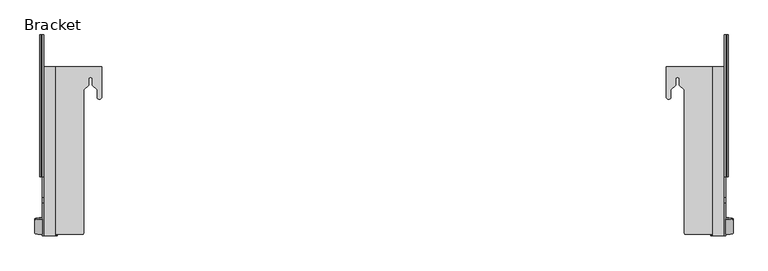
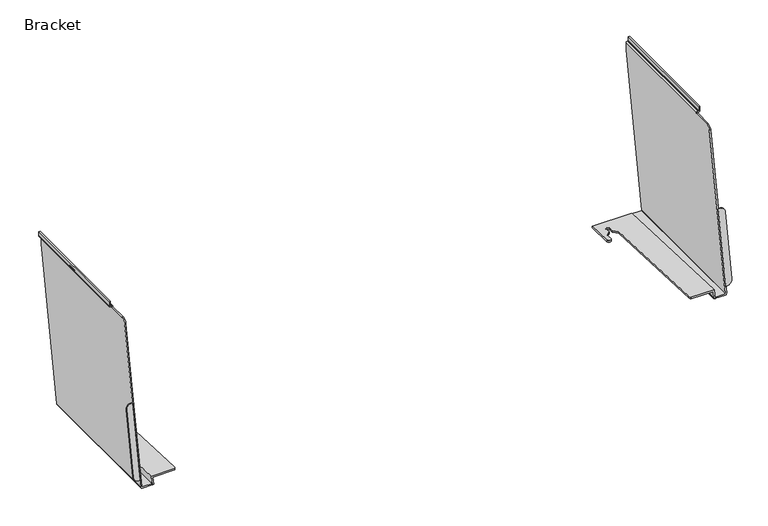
"""IFC4 building model written with IfcOpenShell, lengths in millimetres: furniture geometry, Steelcase Turnstone - Bivi - Seat - Rumble Seat - Table Frame Attachment Bracket : Bracket."""

from ifc_helpers import new_model, si_unit, frame, origin, place, context, project, spatial, polyline, circle_curve, ellipse_curve, source, transform, mapped, element, save
from ifc_brep_helpers import plane_surface, cylinder_surface, revolved_surface, advanced_brep


def bracket_5da60547(model_context):
    return source(origin(), model_context, "Body", "AdvancedBrep", [
        advanced_brep(
        [(1584.7267646, -163.5694426, 504.6641143), (1580.6037127, -163.5694426, 504.6641143), (1580.6037127, -196.2490672, 319.3287534), (1583.9565157, -196.2490672, 319.3287534), (1596.6565127, -194.0437098, 331.8359571), (1596.6565127, -165.6410462, 492.9154667), (1584.7267646, -161.2981934, 504.2522241), (1596.6565127, -163.4269275, 492.5139371), (1596.6565127, -192.6128772, 331.5764762), (1583.9565157, -194.8790539, 319.080302), (1580.6037127, -194.8790539, 319.080302), (1580.6037127, -161.2981934, 504.2522241)],
        [
            (0, 1),
            (1, 2),
            (2, 3),
            (3, 4, ellipse_curve(frame((1583.9565157, -194.0437098, 331.8359571), z_axis=(0.0, -0.9848077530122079, 0.17364817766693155), x_axis=(0.0, -0.1736481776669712, -0.984807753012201)), 12.7001475, 12.6999971)),
            (4, 5),
            (5, 0, ellipse_curve(frame((1584.7267646, -165.6410462, 492.9154667), z_axis=(0.0, -0.9848077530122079, 0.17364817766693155), x_axis=(0.0, -0.1736481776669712, -0.984807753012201)), 11.9298894, 11.9297481)),
            (6, 7, circle_curve(frame((1584.7267646, -163.4269275, 492.5139371), z_axis=(0.0, 0.9839509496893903, -0.1784391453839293), x_axis=(0.0, -0.1784391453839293, -0.9839509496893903)), 11.9297481)),
            (7, 8),
            (8, 9, circle_curve(frame((1583.9565157, -192.6128772, 331.5764762), z_axis=(0.0, 0.9839509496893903, -0.1784391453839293), x_axis=(0.0, -0.1784391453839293, -0.9839509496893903)), 12.6999971)),
            (9, 10),
            (10, 11),
            (11, 6),
            (11, 1),
            (0, 6),
            (10, 2),
            (9, 3),
            (8, 4),
            (7, 5),
        ],
        [
            plane_surface(frame((-105.6465848, -130.1351991, 694.2791319), z_axis=(0.0, -0.9848077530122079, 0.17364817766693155), x_axis=(1.0, 0.0, 0.0))),
            plane_surface(frame((1584.7267646, -165.5556615, 480.7756501), z_axis=(0.0, 0.9839509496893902, -0.17843914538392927), x_axis=(-1.0, 0.0, 0.0))),
            plane_surface(frame((1580.6037127, -161.2981934, 504.2522241), z_axis=(0.0, 0.17843914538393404, 0.9839509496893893), x_axis=(0.0, -0.9839509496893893, 0.17843914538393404))),
            plane_surface(frame((1580.6037127, -194.8790539, 319.080302), z_axis=(-1.0, 0.0, 0.0), x_axis=(0.0, -0.9839509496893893, 0.17843914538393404))),
            plane_surface(frame((1583.9565157, -194.8790539, 319.080302), z_axis=(0.0, -0.17843914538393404, -0.9839509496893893), x_axis=(0.0, -0.9839509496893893, 0.17843914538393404))),
            cylinder_surface(frame((1583.9565157, -195.6877218, 332.1340981), z_axis=(0.0, 0.9839509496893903, -0.1784391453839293), x_axis=(0.0, -0.1784391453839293, -0.9839509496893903)), 12.6999971),
            plane_surface(frame((1596.6565127, -163.4269275, 492.5139371), z_axis=(1.0, 0.0, 0.0), x_axis=(0.0, -0.9839509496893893, 0.17843914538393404))),
            cylinder_surface(frame((1584.7267646, -166.501772, 493.071559), z_axis=(0.0, 0.9839509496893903, -0.1784391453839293), x_axis=(0.0, -0.1784391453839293, -0.9839509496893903)), 11.9297481),
        ],
        [
            (0, [[1, 2, 3, 4, 5, 6]]),
            (1, [[7, 8, 9, 10, 11, 12]]),
            (2, [[-12, 13, -1, 14]]),
            (3, [[-11, 15, -2, -13]]),
            (4, [[-10, 16, -3, -15]]),
            (5, [[-9, 17, -4, -16]]),
            (6, [[-8, 18, -5, -17]]),
            (7, [[-7, -14, -6, -18]]),
        ],
    ),
        advanced_brep(
        [(1552.0033127, -199.8723316, 298.7802), (1552.0033127, -196.1325541, 319.9895321), (1492.7043624, -196.1325541, 319.9895321), (1493.0789112, -196.7451878, 316.5151141), (1548.3318209, -196.7451878, 316.5151141), (1548.3318209, -199.8723316, 298.7802), (1452.5623127, 99.7722819, 307.2629397), (1452.5623127, 164.732528, 304.4690599), (1452.5623127, 164.732528, 300.2899442), (1452.5623127, 99.7722819, 303.2057285), (1552.0033127, 164.732528, 298.7802), (1552.0033127, 164.732528, 304.4690599), (1462.7223127, 99.7722819, 307.2629397), (1462.7223127, 115.3629146, 306.5924011), (1472.5013127, 125.1314569, 306.1722652), (1472.5013127, 137.4119102, 305.6440943), (1480.8833127, 137.4119102, 305.6440943), (1480.8833127, 125.1314569, 306.1722652), (1490.9912172, 115.0343618, 306.6065319), (1490.9912172, -189.7048221, 319.7130813), (1548.3318209, 164.732528, 298.7802), (1548.3318209, 164.732528, 300.2899442), (1490.9912172, -189.7048221, 316.1991026), (1462.7223127, 99.7722819, 303.2057285), (1462.7223127, 115.3629146, 302.5059325), (1472.5013127, 125.1314569, 302.0674649), (1472.5013127, 137.4119102, 301.5162485), (1480.8833127, 137.4119102, 301.5162485), (1480.8833127, 125.1314569, 302.0674649), (1490.9912172, 115.0343618, 302.5206798)],
        [
            (0, 1),
            (1, 2),
            (2, 3, ellipse_curve(frame((1503.9062358, -189.7048221, 356.4430116), z_axis=(0.0, -0.9848077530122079, 0.17364817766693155), x_axis=(0.0, -0.17364817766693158, -0.984807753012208)), 74.3746277, 12.9150186)),
            (3, 4),
            (4, 5),
            (5, 0),
            (6, 7),
            (7, 8),
            (8, 9),
            (9, 6),
            (10, 11),
            (11, 1),
            (0, 10),
            (11, 7),
            (6, 12, ellipse_curve(frame((1457.6423127, 99.7722819, 307.2629397), z_axis=(0.0, 0.04296934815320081, 0.9990763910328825), x_axis=(0.0, 0.9990763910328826, -0.04296934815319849)), 5.0846963, 5.08)),
            (12, 13),
            (13, 14),
            (14, 15),
            (15, 16, ellipse_curve(frame((1476.6923127, 137.4119102, 305.6440943), z_axis=(0.0, -0.04296934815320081, -0.9990763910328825), x_axis=(0.0, -0.9990763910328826, 0.04296934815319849)), 4.1948744, 4.191)),
            (16, 17),
            (17, 18),
            (18, 19),
            (19, 2, ellipse_curve(frame((1503.9062358, -189.7048221, 319.7130813), z_axis=(0.0, 0.04296934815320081, 0.9990763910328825), x_axis=(0.0, 0.9990763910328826, -0.04296934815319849)), 12.926958, 12.9150186)),
            (10, 20),
            (20, 21),
            (21, 8),
            (5, 20),
            (19, 22),
            (22, 3, ellipse_curve(frame((1503.9062358, -189.7048221, 316.1991026), z_axis=(0.0, 0.044840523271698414, 0.9989941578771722), x_axis=(0.0, 0.9989941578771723, -0.04484052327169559)), 12.9280221, 12.9150186)),
            (9, 23, ellipse_curve(frame((1457.6423127, 99.7722819, 303.2057285), z_axis=(0.0, 0.044840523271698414, 0.9989941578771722), x_axis=(0.0, 0.9989941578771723, -0.04484052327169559)), 5.0851148, 5.08)),
            (23, 12),
            (23, 24),
            (24, 13),
            (24, 25),
            (25, 14),
            (25, 26),
            (26, 15),
            (26, 27, ellipse_curve(frame((1476.6923127, 137.4119102, 301.5162485), z_axis=(0.0, -0.044840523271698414, -0.9989941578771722), x_axis=(0.0, -0.9989941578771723, 0.04484052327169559)), 4.1952197, 4.191)),
            (27, 16),
            (27, 28),
            (28, 17),
            (28, 29),
            (29, 18),
            (29, 22),
            (4, 21),
        ],
        [
            plane_surface(frame((-105.6465848, -130.1351991, 694.2791319), z_axis=(0.0, -0.9848077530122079, 0.17364817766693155), x_axis=(1.0, 0.0, 0.0))),
            plane_surface(frame((1452.5623127, 164.732528, 300.5888376), z_axis=(-1.0, 0.0, 0.0), x_axis=(0.0, 0.0, -1.0))),
            plane_surface(frame((1552.0033127, 164.732528, 300.5888376), z_axis=(1.0, 0.0, 0.0), x_axis=(0.0, 0.0, 1.0))),
            plane_surface(frame((1452.5623127, -200.4313954, 320.1744212), z_axis=(0.0, 0.04296934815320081, 0.9990763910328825), x_axis=(1.0, 0.0, 0.0))),
            plane_surface(frame((1452.5623127, 164.732528, 304.4690599), z_axis=(0.0, 1.0, 0.0), x_axis=(1.0, 0.0, 0.0))),
            plane_surface(frame((1452.5623127, 164.732528, 298.7802), z_axis=(0.0, 0.0, -1.0), x_axis=(1.0, 0.0, 0.0))),
            cylinder_surface(frame((1503.9062358, -189.7048221, 0.0), z_axis=(0.0, 0.0, -1.0), x_axis=(-1.0, 0.0, 0.0)), 12.9150186),
            cylinder_surface(frame((1457.6423127, 99.7722819, 0.0), z_axis=(0.0, 0.0, -1.0), x_axis=(-1.0, 0.0, 0.0)), 5.08),
            plane_surface(frame((1462.7223127, 115.3629146, 407.911709), z_axis=(1.0, 0.0, 0.0), x_axis=(0.0, 0.0, -1.0))),
            plane_surface(frame((1472.5013127, 125.1314569, 407.911709), z_axis=(0.7067283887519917, -0.7074849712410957, 0.0), x_axis=(0.0, 0.0, -1.0))),
            plane_surface(frame((1472.5013127, 137.4119102, 407.911709), z_axis=(1.0, 0.0, 0.0), x_axis=(0.0, 0.0, -1.0))),
            revolved_surface(polyline([(1472.5013127, 137.4119102, 305.82434531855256), (1472.5013127, 137.4119102, 301.3281326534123)]), (1476.6923127, 137.4119102, 0.0), (0.0, 0.0, 1.0)),
            plane_surface(frame((1480.8833127, 125.1314569, 407.911709), z_axis=(-1.0, 0.0, 0.0), x_axis=(0.0, 0.0, -1.0))),
            plane_surface(frame((1490.9912172, 115.0343618, 407.911709), z_axis=(-0.7067283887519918, -0.7074849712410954, 0.0), x_axis=(0.0, 0.0, -1.0))),
            plane_surface(frame((1490.9912172, -189.7048221, 407.911709), z_axis=(-1.0, 0.0, 0.0), x_axis=(0.0, 0.0, -1.0))),
            plane_surface(frame((1548.3318209, -201.7788062, 316.7410515), z_axis=(-1.0000000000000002, 0.0, 0.0), x_axis=(0.0, -0.9989941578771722, 0.044840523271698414))),
            plane_surface(frame((1548.3318209, 164.9966462, 300.2780891), z_axis=(0.0, -0.044840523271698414, -0.9989941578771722), x_axis=(-1.0, 0.0, 0.0))),
        ],
        [
            (0, [[1, 2, 3, 4, 5, 6]]),
            (1, [[7, 8, 9, 10]]),
            (2, [[11, 12, -1, 13]]),
            (3, [[14, -7, 15, 16, 17, 18, 19, 20, 21, 22, 23, -2, -12]]),
            (4, [[-11, 24, 25, 26, -8, -14]]),
            (5, [[-13, -6, 27, -24]]),
            (6, [[-23, 28, 29, -3]]),
            (7, [[-15, -10, 30, 31]]),
            (8, [[-16, -31, 32, 33]]),
            (9, [[-17, -33, 34, 35]]),
            (10, [[-18, -35, 36, 37]]),
            (11, [[-19, -37, 38, 39]]),
            (12, [[-20, -39, 40, 41]]),
            (13, [[-21, -41, 42, 43]]),
            (14, [[-22, -43, 44, -28]]),
            (15, [[45, -25, -27, -5]]),
            (16, [[-45, -4, -29, -44, -42, -40, -38, -36, -34, -32, -30, -9, -26]]),
        ],
    ),
        advanced_brep(
        [(1583.5501127, 233.2990046, 720.9282), (1586.5473127, 233.2990046, 720.9282), (1586.5473127, 233.2990046, 709.8772043), (1583.1203084, 233.2990046, 706.4502), (1581.2433586, 233.2990046, 706.4502), (1580.6037127, 233.2990046, 705.8105541), (1580.6037127, 233.2990046, 687.6400124), (1577.6065127, 233.2990046, 687.6400124), (1577.6065127, 233.2990046, 706.0611666), (1580.9927462, 233.2990046, 709.4474), (1582.8546097, 233.2990046, 709.4474), (1583.5501127, 233.2990046, 710.142903), (1583.5501127, -72.9741954, 720.9282), (1586.5473127, -72.9741954, 720.9282), (1586.5473127, -72.9741954, 709.8772043), (1583.1203084, -72.9741954, 706.4502), (1581.2433586, -72.9741954, 706.4502), (1580.6037127, -72.9741954, 705.8105541), (1580.6037127, -72.9741954, 704.7738), (1580.6037127, -117.6281406, 704.7738), (1580.6037127, -130.1351991, 694.2791319), (1580.6037127, -199.2005258, 302.5902), (1580.6037127, 165.4043338, 302.5902), (1576.7937127, -199.8723316, 298.7802), (1576.7937127, 164.732528, 298.7802), (1552.0541127, -199.8723316, 298.7802), (1552.0541127, 164.732528, 298.7802), (1548.3318209, -199.3438444, 301.7774), (1548.3318209, 165.2610152, 301.7774), (1576.8244238, -199.3438444, 301.7774), (1576.8244238, 165.2610152, 301.7774), (1577.6065127, -199.205941, 302.559489), (1577.6065127, 165.3989186, 302.559489), (1577.6065127, -130.1351991, 694.2791319), (1577.6065127, -117.6281406, 704.7738), (1577.6065127, -72.9741954, 704.7738), (1577.6065127, -72.9741954, 706.0611666), (1580.9927462, -72.9741954, 709.4474), (1582.8546097, -72.9741954, 709.4474), (1583.5501127, -72.9741954, 710.142903)],
        [
            (0, 1),
            (1, 2),
            (2, 3, circle_curve(frame((1583.1203084, 233.2990046, 709.8772043), z_axis=(0.0, 1.0, 0.0), x_axis=(-1.0, 0.0, 0.0)), 3.4270043)),
            (3, 4),
            (4, 5, circle_curve(frame((1581.2433586, 233.2990046, 705.8105541), z_axis=(0.0, -1.0, 0.0), x_axis=(-1.0, 0.0, 0.0)), 0.6396459)),
            (5, 6),
            (6, 7),
            (7, 8),
            (8, 9, circle_curve(frame((1580.9927462, 233.2990046, 706.0611666), z_axis=(0.0, 1.0, 0.0), x_axis=(-1.0, 0.0, 0.0)), 3.3862334)),
            (9, 10),
            (10, 11, circle_curve(frame((1582.8546097, 233.2990046, 710.142903), z_axis=(0.0, -1.0, 0.0), x_axis=(-1.0, 0.0, 0.0)), 0.695503)),
            (11, 0),
            (0, 12),
            (12, 13),
            (13, 1),
            (13, 14),
            (14, 2),
            (14, 15, circle_curve(frame((1583.1203084, -72.9741954, 709.8772043), z_axis=(0.0, 1.0, 0.0), x_axis=(-1.0, 0.0, 0.0)), 3.4270043)),
            (15, 3),
            (15, 16),
            (16, 4),
            (16, 17, circle_curve(frame((1581.2433586, -72.9741954, 705.8105541), z_axis=(0.0, -1.0, 0.0), x_axis=(-1.0, 0.0, 0.0)), 0.6396459)),
            (17, 5),
            (17, 18),
            (18, 19),
            (19, 20, circle_curve(frame((1580.6037127, -117.6281406, 692.0738), z_axis=(1.0, 0.0, 0.0), x_axis=(0.0, -1.0, 0.0)), 12.7)),
            (20, 21),
            (21, 22),
            (22, 6),
            (21, 23, ellipse_curve(frame((1576.7937127, -199.2005258, 302.5902), z_axis=(0.0, 0.9848077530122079, -0.17364817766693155), x_axis=(0.0, -0.173648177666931, -0.9848077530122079)), 3.8687754, 3.81)),
            (23, 24),
            (24, 22, ellipse_curve(frame((1576.7937127, 165.4043338, 302.5902), z_axis=(0.0, -0.9848077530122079, 0.17364817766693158), x_axis=(0.0, -0.173648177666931, -0.984807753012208)), 3.8687754, 3.81)),
            (23, 25),
            (25, 26),
            (26, 24),
            (25, 27, ellipse_curve(frame((1552.0541127, -199.2005258, 302.5902), z_axis=(0.0, 0.9848077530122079, -0.17364817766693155), x_axis=(0.0, -0.173648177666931, -0.9848077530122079)), 3.8687754, 3.81)),
            (27, 28),
            (28, 26, ellipse_curve(frame((1552.0541127, 165.4043338, 302.5902), z_axis=(0.0, -0.9848077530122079, 0.17364817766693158), x_axis=(0.0, -0.173648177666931, -0.984807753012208)), 3.8687754, 3.81)),
            (27, 29),
            (29, 30),
            (30, 28),
            (29, 31, ellipse_curve(frame((1576.8244238, -199.205941, 302.559489), z_axis=(0.0, -0.9848077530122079, 0.17364817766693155), x_axis=(0.0, 0.173648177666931, 0.9848077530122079)), 0.7941539, 0.782089)),
            (31, 32),
            (32, 30, ellipse_curve(frame((1576.8244238, 165.3989186, 302.559489), z_axis=(0.0, 0.9848077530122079, -0.17364817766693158), x_axis=(0.0, 0.173648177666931, 0.984807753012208)), 0.7941539, 0.782089)),
            (7, 32),
            (31, 33),
            (33, 34, circle_curve(frame((1577.6065127, -117.6281406, 692.0738), z_axis=(-1.0, 0.0, 0.0), x_axis=(0.0, -1.0, 0.0)), 12.7)),
            (34, 35),
            (35, 36),
            (36, 8),
            (36, 37, circle_curve(frame((1580.9927462, -72.9741954, 706.0611666), z_axis=(0.0, 1.0, 0.0), x_axis=(-1.0, 0.0, 0.0)), 3.3862334)),
            (37, 9),
            (37, 38),
            (38, 10),
            (38, 39, circle_curve(frame((1582.8546097, -72.9741954, 710.142903), z_axis=(0.0, -1.0, 0.0), x_axis=(-1.0, 0.0, 0.0)), 0.695503)),
            (39, 11),
            (39, 12),
            (35, 18),
            (20, 33),
            (19, 34),
        ],
        [
            plane_surface(frame((1583.5501127, 233.2990046, 710.142903), z_axis=(0.0, 1.0, 0.0), x_axis=(0.0, 0.0, 1.0))),
            plane_surface(frame((1586.5473127, -200.4313954, 720.9282), z_axis=(0.0, 0.0, 1.0), x_axis=(0.0, 1.0, 0.0))),
            plane_surface(frame((1586.5473127, -200.4313954, 709.8772043), z_axis=(1.0, 0.0, 0.0), x_axis=(0.0, 1.0, 0.0))),
            cylinder_surface(frame((1583.1203084, 233.2990046, 709.8772043), z_axis=(0.0, -1.0, 0.0), x_axis=(-1.0, 0.0, 0.0)), 3.4270043),
            plane_surface(frame((1581.2433586, -200.4313954, 706.4502), z_axis=(-5.552943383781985e-12, 0.0, -1.0), x_axis=(0.0, 1.0, 0.0))),
            revolved_surface(polyline([(1580.6037127, 233.2990046, 705.8105541), (1580.6037127, -72.97419539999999, 705.8105541)]), (1581.2433586, 233.2990046, 705.8105541), (0.0, 1.0, 0.0)),
            plane_surface(frame((1580.6037127, -200.4313954, 302.5902), z_axis=(1.0, 0.0, 0.0), x_axis=(0.0, 1.0, 0.0))),
            cylinder_surface(frame((1576.7937127, 233.2990046, 302.5902), z_axis=(0.0, -1.0, 0.0), x_axis=(-1.0, 0.0, 0.0)), 3.81),
            plane_surface(frame((1552.0541127, -200.4313954, 298.7802), z_axis=(0.0, 0.0, -1.0), x_axis=(0.0, 1.0, 0.0))),
            cylinder_surface(frame((1552.0541127, 233.2990046, 302.5902), z_axis=(0.0, -1.0, 0.0), x_axis=(-1.0, 0.0, 0.0)), 3.81),
            plane_surface(frame((1576.8244238, -200.4313954, 301.7774), z_axis=(0.0, 0.0, 1.0), x_axis=(0.0, 1.0, 0.0))),
            revolved_surface(polyline([(1576.0423348, 165.5368219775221, 302.559489), (1576.0423348, -199.34384439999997, 302.559489)]), (1576.8244238, 233.2990046, 302.559489), (0.0, 1.0, 0.0)),
            plane_surface(frame((1577.6065127, -200.4313954, 706.0611666), z_axis=(-1.0, 0.0, 0.0), x_axis=(0.0, 1.0, 0.0))),
            cylinder_surface(frame((1580.9927462, 233.2990046, 706.0611666), z_axis=(0.0, -1.0, 0.0), x_axis=(-1.0, 0.0, 0.0)), 3.3862334),
            plane_surface(frame((1582.8546097, -200.4313954, 709.4474), z_axis=(-9.523764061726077e-12, 0.0, 1.0), x_axis=(0.0, 1.0, 0.0))),
            revolved_surface(polyline([(1582.1591067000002, 233.2990046, 710.142903), (1582.1591067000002, -72.97419539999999, 710.142903)]), (1582.8546097, 233.2990046, 710.142903), (0.0, 1.0, 0.0)),
            plane_surface(frame((1583.5501127, -200.4313954, 720.9282), z_axis=(-1.0, 0.0, 0.0), x_axis=(0.0, 1.0, 0.0))),
            plane_surface(frame((-105.6465848, 158.3177215, 262.4000247), z_axis=(0.0, 0.9848077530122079, -0.17364817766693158), x_axis=(1.0, 0.0, 0.0))),
            plane_surface(frame((-105.6465848, -72.9741954, 720.9282), z_axis=(0.0, -1.0, 0.0), x_axis=(1.0, 0.0, 0.0))),
            plane_surface(frame((-105.6465848, -130.1351991, 694.2791319), z_axis=(0.0, -0.9848077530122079, 0.17364817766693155), x_axis=(1.0, 0.0, 0.0))),
            cylinder_surface(frame((889.0125127, -117.6281406, 692.0738), z_axis=(1.0, 0.0, 0.0), x_axis=(0.0, -1.0, 0.0)), 12.7),
            plane_surface(frame((-105.6465848, -72.9741954, 704.7738), z_axis=(0.0, 0.0, 1.0), x_axis=(1.0, 0.0, 0.0))),
        ],
        [
            (0, [[1, 2, 3, 4, 5, 6, 7, 8, 9, 10, 11, 12]]),
            (1, [[-1, 13, 14, 15]]),
            (2, [[-2, -15, 16, 17]]),
            (3, [[-3, -17, 18, 19]]),
            (4, [[-4, -19, 20, 21]]),
            (5, [[-5, -21, 22, 23]]),
            (6, [[-6, -23, 24, 25, 26, 27, 28, 29]]),
            (7, [[-28, 30, 31, 32]]),
            (8, [[-31, 33, 34, 35]]),
            (9, [[-34, 36, 37, 38]]),
            (10, [[-37, 39, 40, 41]]),
            (11, [[-40, 42, 43, 44]]),
            (12, [[-8, 45, -43, 46, 47, 48, 49, 50]]),
            (13, [[-9, -50, 51, 52]]),
            (14, [[-10, -52, 53, 54]]),
            (15, [[-11, -54, 55, 56]]),
            (16, [[-12, -56, 57, -13]]),
            (17, [[-7, -29, -32, -35, -38, -41, -44, -45]]),
            (18, [[58, -24, -22, -20, -18, -16, -14, -57, -55, -53, -51, -49]]),
            (19, [[59, -46, -42, -39, -36, -33, -30, -27]]),
            (20, [[-59, -26, 60, -47]]),
            (21, [[-60, -25, -58, -48]]),
        ],
    ),
        advanced_brep(
        [(103.4330609, -161.2981934, 504.2522241), (107.5561127, -161.2981934, 504.2522241), (107.5561127, -194.8790539, 319.080302), (104.2033098, -194.8790539, 319.080302), (91.5033127, -192.6128772, 331.5764762), (91.5033127, -163.4269275, 492.5139371), (103.4330609, -163.5694426, 504.6641143), (107.5561127, -163.5694426, 504.6641143), (107.5561127, -196.2490672, 319.3287534), (104.2033098, -196.2490672, 319.3287534), (91.5033127, -194.0437098, 331.8359571), (91.5033127, -165.6410462, 492.9154667)],
        [
            (0, 1),
            (1, 2),
            (2, 3),
            (3, 4, circle_curve(frame((104.2033098, -192.6128772, 331.5764762), z_axis=(0.0, 0.9839509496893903, -0.1784391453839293), x_axis=(1.0, 0.0, 0.0)), 12.6999971)),
            (4, 5),
            (5, 0, circle_curve(frame((103.4330609, -163.4269275, 492.5139371), z_axis=(0.0, 0.9839509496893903, -0.1784391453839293), x_axis=(1.0, 0.0, 0.0)), 11.9297481)),
            (0, 6),
            (6, 7),
            (7, 1),
            (7, 8),
            (8, 2),
            (8, 9),
            (9, 3),
            (9, 10, ellipse_curve(frame((104.2033098, -194.0437098, 331.8359571), z_axis=(0.0, 0.9848077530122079, -0.17364817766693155), x_axis=(0.0, -0.1736481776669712, -0.984807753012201)), 12.7001475, 12.6999971)),
            (10, 4),
            (10, 11),
            (11, 5),
            (11, 6, ellipse_curve(frame((103.4330609, -165.6410462, 492.9154667), z_axis=(0.0, 0.9848077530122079, -0.17364817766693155), x_axis=(0.0, -0.1736481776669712, -0.984807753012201)), 11.9298894, 11.9297481)),
        ],
        [
            plane_surface(frame((107.5561127, -161.2981934, 504.2522241), z_axis=(0.0, 0.9839509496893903, -0.1784391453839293), x_axis=(1.0, 0.0, 0.0))),
            plane_surface(frame((103.4330609, -161.2981934, 504.2522241), z_axis=(0.0, 0.17843914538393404, 0.9839509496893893), x_axis=(0.0, -0.9839509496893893, 0.17843914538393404))),
            plane_surface(frame((107.5561127, -161.2981934, 504.2522241), z_axis=(1.0, 0.0, 0.0), x_axis=(0.0, -0.9839509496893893, 0.17843914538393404))),
            plane_surface(frame((107.5561127, -194.8790539, 319.080302), z_axis=(0.0, -0.17843914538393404, -0.9839509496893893), x_axis=(0.0, -0.9839509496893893, 0.17843914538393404))),
            cylinder_surface(frame((104.2033098, -195.6877218, 332.1340981), z_axis=(0.0, 0.9839509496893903, -0.1784391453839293), x_axis=(1.0, 0.0, 0.0)), 12.6999971),
            plane_surface(frame((91.5033127, -192.6128772, 331.5764762), z_axis=(-1.0, 0.0, 0.0), x_axis=(0.0, -0.9839509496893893, 0.17843914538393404))),
            cylinder_surface(frame((103.4330609, -166.501772, 493.071559), z_axis=(0.0, 0.9839509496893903, -0.1784391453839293), x_axis=(1.0, 0.0, 0.0)), 11.9297481),
            plane_surface(frame((-105.6465848, -130.1351991, 694.2791319), z_axis=(0.0, -0.9848077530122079, 0.17364817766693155), x_axis=(1.0, 0.0, 0.0))),
        ],
        [
            (0, [[1, 2, 3, 4, 5, 6]]),
            (1, [[-1, 7, 8, 9]]),
            (2, [[-2, -9, 10, 11]]),
            (3, [[-3, -11, 12, 13]]),
            (4, [[-4, -13, 14, 15]]),
            (5, [[-5, -15, 16, 17]]),
            (6, [[-6, -17, 18, -7]]),
            (7, [[-8, -18, -16, -14, -12, -10]]),
        ],
    ),
        advanced_brep(
        [(235.5975127, 164.732528, 300.2899442), (235.5975127, 164.732528, 304.4690599), (235.5975127, 99.7722819, 307.2629397), (235.5975127, 99.7722819, 303.2057285), (136.1565127, 164.732528, 304.4690599), (136.1565127, 164.732528, 298.7802), (136.1565127, -199.8723316, 298.7802), (136.1565127, -196.1325541, 319.9895321), (195.455463, -196.1325541, 319.9895321), (197.1686083, -189.7048221, 319.7130813), (197.1686083, 115.0343618, 306.6065319), (207.2765127, 125.1314569, 306.1722652), (207.2765127, 137.4119102, 305.6440943), (215.6585127, 137.4119102, 305.6440943), (215.6585127, 125.1314569, 306.1722652), (225.4375127, 115.3629146, 306.5924011), (225.4375127, 99.7722819, 307.2629397), (139.8280045, 164.732528, 300.2899442), (139.8280045, 164.732528, 298.7802), (139.8280045, -199.8723316, 298.7802), (139.8280045, -196.7451878, 316.5151141), (225.4375127, 99.7722819, 303.2057285), (225.4375127, 115.3629146, 302.5059325), (215.6585127, 125.1314569, 302.0674649), (215.6585127, 137.4119102, 301.5162485), (207.2765127, 137.4119102, 301.5162485), (207.2765127, 125.1314569, 302.0674649), (197.1686083, 115.0343618, 302.5206798), (197.1686083, -189.7048221, 316.1991026), (195.0809142, -196.7451878, 316.5151141)],
        [
            (0, 1),
            (1, 2),
            (2, 3),
            (3, 0),
            (4, 5),
            (5, 6),
            (6, 7),
            (7, 4),
            (1, 4),
            (7, 8),
            (8, 9, ellipse_curve(frame((184.2535897, -189.7048221, 319.7130813), z_axis=(0.0, 0.04296934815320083, 0.9990763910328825), x_axis=(0.0, 0.9990763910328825, -0.04296934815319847)), 12.926958, 12.9150186)),
            (9, 10),
            (10, 11),
            (11, 12),
            (12, 13, ellipse_curve(frame((211.4675127, 137.4119102, 305.6440943), z_axis=(0.0, -0.04296934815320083, -0.9990763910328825), x_axis=(0.0, -0.9990763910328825, 0.04296934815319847)), 4.1948744, 4.191)),
            (13, 14),
            (14, 15),
            (15, 16),
            (16, 2, ellipse_curve(frame((230.5175127, 99.7722819, 307.2629397), z_axis=(0.0, 0.04296934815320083, 0.9990763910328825), x_axis=(0.0, 0.9990763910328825, -0.04296934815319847)), 5.0846963, 5.08)),
            (0, 17),
            (17, 18),
            (18, 5),
            (18, 19),
            (19, 6),
            (17, 20),
            (20, 19),
            (3, 21, ellipse_curve(frame((230.5175127, 99.7722819, 303.2057285), z_axis=(0.0, -0.044840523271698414, -0.9989941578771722), x_axis=(0.0, 0.9989941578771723, -0.04484052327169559)), 5.0851148, 5.08)),
            (21, 22),
            (22, 23),
            (23, 24),
            (24, 25, ellipse_curve(frame((211.4675127, 137.4119102, 301.5162485), z_axis=(0.0, 0.044840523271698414, 0.9989941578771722), x_axis=(0.0, -0.9989941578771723, 0.04484052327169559)), 4.1952197, 4.191)),
            (25, 26),
            (26, 27),
            (27, 28),
            (28, 29, ellipse_curve(frame((184.2535897, -189.7048221, 316.1991026), z_axis=(0.0, -0.044840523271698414, -0.9989941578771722), x_axis=(0.0, 0.9989941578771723, -0.04484052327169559)), 12.9280221, 12.9150186)),
            (29, 20),
            (28, 9),
            (8, 29, ellipse_curve(frame((184.2535897, -189.7048221, 356.4430116), z_axis=(0.0, 0.9848077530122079, -0.17364817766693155), x_axis=(0.0, -0.17364817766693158, -0.984807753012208)), 74.3746277, 12.9150186)),
            (16, 21),
            (15, 22),
            (14, 23),
            (13, 24),
            (12, 25),
            (11, 26),
            (10, 27),
        ],
        [
            plane_surface(frame((235.5975127, -200.4313954, 320.1744212), z_axis=(1.0, 0.0, 0.0), x_axis=(0.0, -0.9990763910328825, 0.04296934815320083))),
            plane_surface(frame((136.1565127, -200.4313954, 320.1744212), z_axis=(-1.0, 0.0, 0.0), x_axis=(0.0, 0.9990763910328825, -0.04296934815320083))),
            plane_surface(frame((235.5975127, 164.732528, 304.4690599), z_axis=(0.0, 0.04296934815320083, 0.9990763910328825), x_axis=(-1.0, 0.0, 0.0))),
            plane_surface(frame((235.5975127, 164.732528, 298.7802), z_axis=(0.0, 1.0, 0.0), x_axis=(-1.0, 0.0, 0.0))),
            plane_surface(frame((235.5975127, -200.5813731, 298.7802), z_axis=(0.0, 0.0, -1.0), x_axis=(-1.0, 0.0, 0.0))),
            plane_surface(frame((139.8280045, 164.9966462, 300.2780891), z_axis=(1.0, 0.0, 0.0), x_axis=(0.0, 0.0, -1.0))),
            plane_surface(frame((139.8280045, -201.7788062, 316.7410515), z_axis=(0.0, -0.044840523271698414, -0.9989941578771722), x_axis=(1.0, 0.0, 0.0))),
            cylinder_surface(frame((184.2535897, -189.7048221, 0.0), z_axis=(0.0, 0.0, -1.0), x_axis=(1.0, 0.0, 0.0)), 12.9150186),
            cylinder_surface(frame((230.5175127, 99.7722819, 0.0), z_axis=(0.0, 0.0, -1.0), x_axis=(1.0, 0.0, 0.0)), 5.08),
            plane_surface(frame((225.4375127, 99.7722819, 407.911709), z_axis=(-1.0, 0.0, 0.0), x_axis=(0.0, 0.0, -1.0))),
            plane_surface(frame((225.4375127, 115.3629146, 407.911709), z_axis=(-0.7067283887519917, -0.7074849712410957, 0.0), x_axis=(0.0, 0.0, -1.0))),
            plane_surface(frame((215.6585127, 125.1314569, 407.911709), z_axis=(-1.0, 0.0, 0.0), x_axis=(0.0, 0.0, -1.0))),
            revolved_surface(polyline([(215.6585127, 137.4119102, 305.82434531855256), (215.6585127, 137.4119102, 301.3281326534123)]), (211.4675127, 137.4119102, 0.0), (0.0, 0.0, 1.0)),
            plane_surface(frame((207.2765127, 137.4119102, 407.911709), z_axis=(1.0, 0.0, 0.0), x_axis=(0.0, 0.0, -1.0))),
            plane_surface(frame((207.2765127, 125.1314569, 407.911709), z_axis=(0.7067283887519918, -0.7074849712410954, 0.0), x_axis=(0.0, 0.0, -1.0))),
            plane_surface(frame((197.1686083, 115.0343618, 407.911709), z_axis=(1.0, 0.0, 0.0), x_axis=(0.0, 0.0, -1.0))),
            plane_surface(frame((-105.6465848, -130.1351991, 694.2791319), z_axis=(0.0, -0.9848077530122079, 0.17364817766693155), x_axis=(1.0, 0.0, 0.0))),
        ],
        [
            (0, [[1, 2, 3, 4]]),
            (1, [[5, 6, 7, 8]]),
            (2, [[9, -8, 10, 11, 12, 13, 14, 15, 16, 17, 18, 19, -2]]),
            (3, [[-5, -9, -1, 20, 21, 22]]),
            (4, [[-22, 23, 24, -6]]),
            (5, [[-21, 25, 26, -23]]),
            (6, [[-20, -4, 27, 28, 29, 30, 31, 32, 33, 34, 35, 36, -25]]),
            (7, [[37, -11, 38, -35]]),
            (8, [[39, -27, -3, -19]]),
            (9, [[-39, -18, 40, -28]]),
            (10, [[-40, -17, 41, -29]]),
            (11, [[-41, -16, 42, -30]]),
            (12, [[-42, -15, 43, -31]]),
            (13, [[-43, -14, 44, -32]]),
            (14, [[-44, -13, 45, -33]]),
            (15, [[-37, -34, -45, -12]]),
            (16, [[-7, -24, -26, -36, -38, -10]]),
        ],
    ),
        advanced_brep(
        [(104.6097127, 233.2990046, 720.9282), (104.6097127, 233.2990046, 710.142903), (105.3052157, 233.2990046, 709.4474), (107.1670793, 233.2990046, 709.4474), (110.5533127, 233.2990046, 706.0611666), (110.5533127, 233.2990046, 687.6400124), (107.5561127, 233.2990046, 687.6400124), (107.5561127, 233.2990046, 705.8105541), (106.9164669, 233.2990046, 706.4502), (105.039517, 233.2990046, 706.4502), (101.6125127, 233.2990046, 709.8772043), (101.6125127, 233.2990046, 720.9282), (101.6125127, -72.9741954, 720.9282), (104.6097127, -72.9741954, 720.9282), (101.6125127, -72.9741954, 709.8772043), (105.039517, -72.9741954, 706.4502), (106.9164669, -72.9741954, 706.4502), (107.5561127, -72.9741954, 705.8105541), (107.5561127, 165.4043338, 302.5902), (107.5561127, -199.2005258, 302.5902), (107.5561127, -130.1351991, 694.2791319), (107.5561127, -117.6281406, 704.7738), (107.5561127, -72.9741954, 704.7738), (111.3661127, 164.732528, 298.7802), (111.3661127, -199.8723316, 298.7802), (136.1057127, 164.732528, 298.7802), (136.1057127, -199.8723316, 298.7802), (139.8280045, 165.2610152, 301.7774), (139.8280045, 131.5937616, 301.7774), (139.8280045, -199.3438444, 301.7774), (111.3354017, 165.2610152, 301.7774), (111.3354017, -199.3438444, 301.7774), (110.5533127, 165.3989186, 302.559489), (110.5533127, -199.205941, 302.559489), (110.5533127, -72.9741954, 706.0611666), (110.5533127, -72.9741954, 704.7738), (110.5533127, -117.6281406, 704.7738), (110.5533127, -130.1351991, 694.2791319), (107.1670793, -72.9741954, 709.4474), (105.3052157, -72.9741954, 709.4474), (104.6097127, -72.9741954, 710.142903)],
        [
            (0, 1),
            (1, 2, circle_curve(frame((105.3052157, 233.2990046, 710.142903), z_axis=(0.0, -1.0, 0.0), x_axis=(1.0, 0.0, 0.0)), 0.695503)),
            (2, 3),
            (3, 4, circle_curve(frame((107.1670793, 233.2990046, 706.0611666), z_axis=(0.0, 1.0, 0.0), x_axis=(1.0, 0.0, 0.0)), 3.3862334)),
            (4, 5),
            (5, 6),
            (6, 7),
            (7, 8, circle_curve(frame((106.9164669, 233.2990046, 705.8105541), z_axis=(0.0, -1.0, 0.0), x_axis=(1.0, 0.0, 0.0)), 0.6396459)),
            (8, 9),
            (9, 10, circle_curve(frame((105.039517, 233.2990046, 709.8772043), z_axis=(0.0, 1.0, 0.0), x_axis=(1.0, 0.0, 0.0)), 3.4270043)),
            (10, 11),
            (11, 0),
            (11, 12),
            (12, 13),
            (13, 0),
            (10, 14),
            (14, 12),
            (9, 15),
            (15, 14, circle_curve(frame((105.039517, -72.9741954, 709.8772043), z_axis=(0.0, 1.0, 0.0), x_axis=(1.0, 0.0, 0.0)), 3.4270043)),
            (8, 16),
            (16, 15),
            (7, 17),
            (17, 16, circle_curve(frame((106.9164669, -72.9741954, 705.8105541), z_axis=(0.0, -1.0, 0.0), x_axis=(1.0, 0.0, 0.0)), 0.6396459)),
            (6, 18),
            (18, 19),
            (19, 20),
            (20, 21, circle_curve(frame((107.5561127, -117.6281406, 692.0738), z_axis=(-1.0, 0.0, 0.0), x_axis=(0.0, -1.0, 0.0)), 12.7)),
            (21, 22),
            (22, 17),
            (18, 23, ellipse_curve(frame((111.3661127, 165.4043338, 302.5902), z_axis=(0.0, -0.9848077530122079, 0.1736481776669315), x_axis=(0.0, -0.17364817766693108, -0.984807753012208)), 3.8687754, 3.81)),
            (23, 24),
            (24, 19, ellipse_curve(frame((111.3661127, -199.2005258, 302.5902), z_axis=(0.0, 0.9848077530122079, -0.1736481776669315), x_axis=(0.0, -0.17364817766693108, -0.984807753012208)), 3.8687754, 3.81)),
            (23, 25),
            (25, 26),
            (26, 24),
            (25, 27, ellipse_curve(frame((136.1057127, 165.4043338, 302.5902), z_axis=(0.0, -0.9848077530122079, 0.1736481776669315), x_axis=(0.0, -0.17364817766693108, -0.984807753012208)), 3.8687754, 3.81)),
            (27, 28),
            (28, 29),
            (29, 26, ellipse_curve(frame((136.1057127, -199.2005258, 302.5902), z_axis=(0.0, 0.9848077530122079, -0.1736481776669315), x_axis=(0.0, -0.17364817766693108, -0.984807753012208)), 3.8687754, 3.81)),
            (30, 31),
            (31, 29),
            (27, 30),
            (30, 32, ellipse_curve(frame((111.3354017, 165.3989186, 302.559489), z_axis=(0.0, 0.9848077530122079, -0.1736481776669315), x_axis=(0.0, 0.17364817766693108, 0.984807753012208)), 0.7941539, 0.782089)),
            (32, 33),
            (33, 31, ellipse_curve(frame((111.3354017, -199.205941, 302.559489), z_axis=(0.0, -0.9848077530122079, 0.1736481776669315), x_axis=(0.0, 0.17364817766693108, 0.984807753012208)), 0.7941539, 0.782089)),
            (4, 34),
            (34, 35),
            (35, 36),
            (36, 37, circle_curve(frame((110.5533127, -117.6281406, 692.0738), z_axis=(1.0, 0.0, 0.0), x_axis=(0.0, -1.0, 0.0)), 12.7)),
            (37, 33),
            (32, 5),
            (3, 38),
            (38, 34, circle_curve(frame((107.1670793, -72.9741954, 706.0611666), z_axis=(0.0, 1.0, 0.0), x_axis=(1.0, 0.0, 0.0)), 3.3862334)),
            (2, 39),
            (39, 38),
            (1, 40),
            (40, 39, circle_curve(frame((105.3052157, -72.9741954, 710.142903), z_axis=(0.0, -1.0, 0.0), x_axis=(1.0, 0.0, 0.0)), 0.695503)),
            (13, 40),
            (22, 35),
            (37, 20),
            (36, 21),
        ],
        [
            plane_surface(frame((104.6097127, 233.2990046, 720.9282), z_axis=(0.0, 1.0, 0.0), x_axis=(1.0, 0.0, 0.0))),
            plane_surface(frame((104.6097127, -200.4313954, 720.9282), z_axis=(0.0, 0.0, 1.0), x_axis=(0.0, 1.0, 0.0))),
            plane_surface(frame((101.6125127, -200.4313954, 720.9282), z_axis=(-1.0, 0.0, 0.0), x_axis=(0.0, 1.0, 0.0))),
            cylinder_surface(frame((105.039517, 233.2990046, 709.8772043), z_axis=(0.0, -1.0, 0.0), x_axis=(1.0, 0.0, 0.0)), 3.4270043),
            plane_surface(frame((105.039517, -200.4313954, 706.4502), z_axis=(0.0, 0.0, -1.0), x_axis=(0.0, 1.0, 0.0))),
            revolved_surface(polyline([(107.55611280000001, 233.2990046, 705.8105541), (107.55611280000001, -72.97419539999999, 705.8105541)]), (106.9164669, 233.2990046, 705.8105541), (0.0, 1.0, 0.0)),
            plane_surface(frame((107.5561127, -200.4313954, 705.8105541), z_axis=(-1.0, 0.0, 0.0), x_axis=(0.0, 1.0, 0.0))),
            cylinder_surface(frame((111.3661127, 233.2990046, 302.5902), z_axis=(0.0, -1.0, 0.0), x_axis=(1.0, 0.0, 0.0)), 3.81),
            plane_surface(frame((111.3661127, -200.4313954, 298.7802), z_axis=(0.0, 0.0, -1.0), x_axis=(0.0, 1.0, 0.0))),
            cylinder_surface(frame((136.1057127, 233.2990046, 302.5902), z_axis=(0.0, -1.0, 0.0), x_axis=(1.0, 0.0, 0.0)), 3.81),
            plane_surface(frame((139.8280045, -200.4313954, 301.7774), z_axis=(0.0, 0.0, 1.0), x_axis=(0.0, 1.0, 0.0))),
            revolved_surface(polyline([(112.1174907, 165.5368219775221, 302.559489), (112.1174907, -199.34384439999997, 302.559489)]), (111.3354017, 233.2990046, 302.559489), (0.0, 1.0, 0.0)),
            plane_surface(frame((110.5533127, -200.4313954, 302.559489), z_axis=(1.0, 0.0, 0.0), x_axis=(0.0, 1.0, 0.0))),
            cylinder_surface(frame((107.1670793, 233.2990046, 706.0611666), z_axis=(0.0, -1.0, 0.0), x_axis=(1.0, 0.0, 0.0)), 3.3862334),
            plane_surface(frame((107.1670793, -200.4313954, 709.4474), z_axis=(0.0, 0.0, 1.0), x_axis=(0.0, 1.0, 0.0))),
            revolved_surface(polyline([(106.00071870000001, 233.2990046, 710.142903), (106.00071870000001, -72.97419539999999, 710.142903)]), (105.3052157, 233.2990046, 710.142903), (0.0, 1.0, 0.0)),
            plane_surface(frame((104.6097127, -200.4313954, 710.142903), z_axis=(1.0, 0.0, 0.0), x_axis=(0.0, 1.0, 0.0))),
            plane_surface(frame((1883.6716103, 233.2990046, 687.6400124), z_axis=(0.0, 0.9848077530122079, -0.1736481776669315), x_axis=(-1.0, 0.0, 0.0))),
            plane_surface(frame((1883.6716103, -72.9741954, 704.7738), z_axis=(0.0, -1.0, 0.0), x_axis=(-1.0, 0.0, 0.0))),
            plane_surface(frame((1883.6716103, -206.2871381, 262.4000247), z_axis=(0.0, -0.9848077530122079, 0.1736481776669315), x_axis=(-1.0, 0.0, 0.0))),
            cylinder_surface(frame((889.0125127, -117.6281406, 692.0738), z_axis=(-1.0, 0.0, 0.0), x_axis=(0.0, -1.0, 0.0)), 12.7),
            plane_surface(frame((1883.6716103, -117.6281406, 704.7738), z_axis=(0.0, 0.0, 1.0), x_axis=(-1.0, 0.0, 0.0))),
        ],
        [
            (0, [[1, 2, 3, 4, 5, 6, 7, 8, 9, 10, 11, 12]]),
            (1, [[-12, 13, 14, 15]]),
            (2, [[-11, 16, 17, -13]]),
            (3, [[-10, 18, 19, -16]]),
            (4, [[-9, 20, 21, -18]]),
            (5, [[-8, 22, 23, -20]]),
            (6, [[-7, 24, 25, 26, 27, 28, 29, -22]]),
            (7, [[-25, 30, 31, 32]]),
            (8, [[-31, 33, 34, 35]]),
            (9, [[-34, 36, 37, 38, 39]]),
            (10, [[40, 41, -38, -37, 42]]),
            (11, [[-40, 43, 44, 45]]),
            (12, [[-5, 46, 47, 48, 49, 50, -44, 51]]),
            (13, [[-4, 52, 53, -46]]),
            (14, [[-3, 54, 55, -52]]),
            (15, [[-2, 56, 57, -54]]),
            (16, [[-1, -15, 58, -56]]),
            (17, [[-6, -51, -43, -42, -36, -33, -30, -24]]),
            (18, [[59, -47, -53, -55, -57, -58, -14, -17, -19, -21, -23, -29]]),
            (19, [[60, -26, -32, -35, -39, -41, -45, -50]]),
            (20, [[-60, -49, 61, -27]]),
            (21, [[-59, -28, -61, -48]]),
        ],
    ),
    ])


if __name__ == "__main__":
    model = new_model("IFC4")
    model_context = context("Model", 3, world=origin())
    ifc_project = project(units=[si_unit("LENGTHUNIT", "METRE", prefix="MILLI")], contexts=[model_context])
    site = spatial("IfcSite", under=ifc_project)
    building = spatial("IfcBuilding", under=site)
    placement = place(None, origin())
    bracket_shape = bracket_5da60547(model_context)
    element("IfcFurniture", 1, ObjectType="Steelcase Turnstone - Bivi - Seat - Rumble Seat - Table Frame Attachment Bracket : Bracket", at=placement, inside=building, context=model_context, shape_type="MappedRepresentation", body=[
        mapped(bracket_shape, transform((0.0, 0.0, 0.0), x_axis=(1.0, 0.0, 0.0), y_axis=(0.0, 1.0, 0.0), z_axis=(0.0, 0.0, 1.0))),
    ])
    save(model, "model.ifc")
